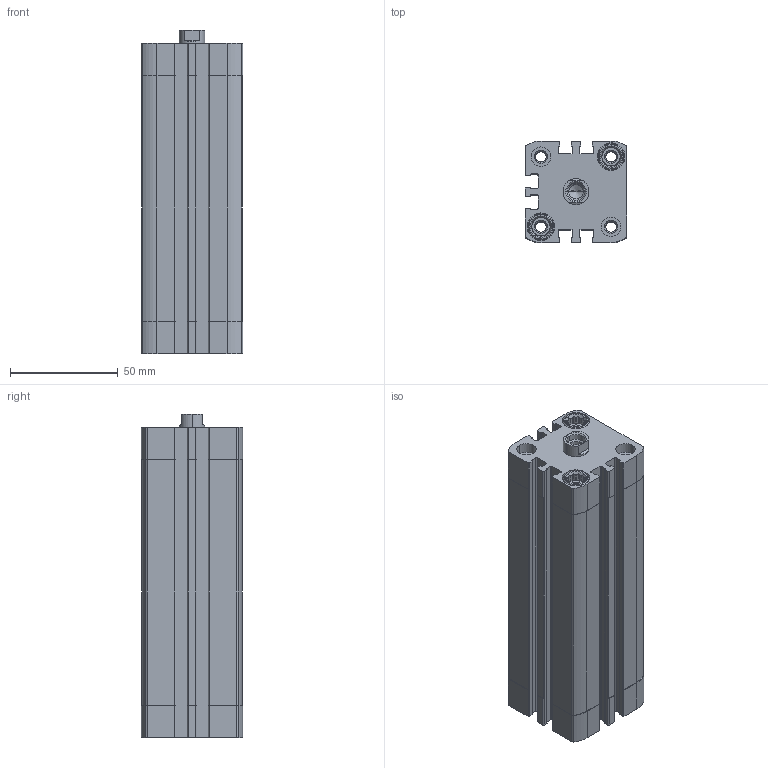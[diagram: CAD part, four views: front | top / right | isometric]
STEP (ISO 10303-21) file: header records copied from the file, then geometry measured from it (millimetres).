
FILE_DESCRIPTION (( 'STEP AP203' ), '1' );
FILE_NAME ('CCN32-100F.STEP', '2017-03-29T11:34:39', ( '' ), ( '' ), 'SwSTEP 2.0', 'SolidWorks 2016', '' );
FILE_SCHEMA (( 'CONFIG_CONTROL_DESIGN' ));
Length unit declared in the file: millimetre
Products named in the file (3): CCN-100---(Z); CCN-100_(KS); CCN32-100F
Assembly tree (2 placements, depth 2):
  CCN32-100F
    CCN-100---(Z)
    CCN-100_(KS)
Bounding box: 47 x 47 x 150 mm (x, y, z)
Volume: 191330.5 mm3; surface area: 75212.4 mm2
Topology: 2 solids, 2 shells, 479 faces, 1298 edges, 853 vertices
Faces by surface type: plane 267, cylinder 170, cone 42
Entity records: 15589 total; most frequent: CARTESIAN_POINT 2927, DIRECTION 2652, ORIENTED_EDGE 2592, EDGE_CURVE 1296, AXIS2_PLACEMENT_3D 970, VERTEX_POINT 853, VECTOR 712, LINE 712
